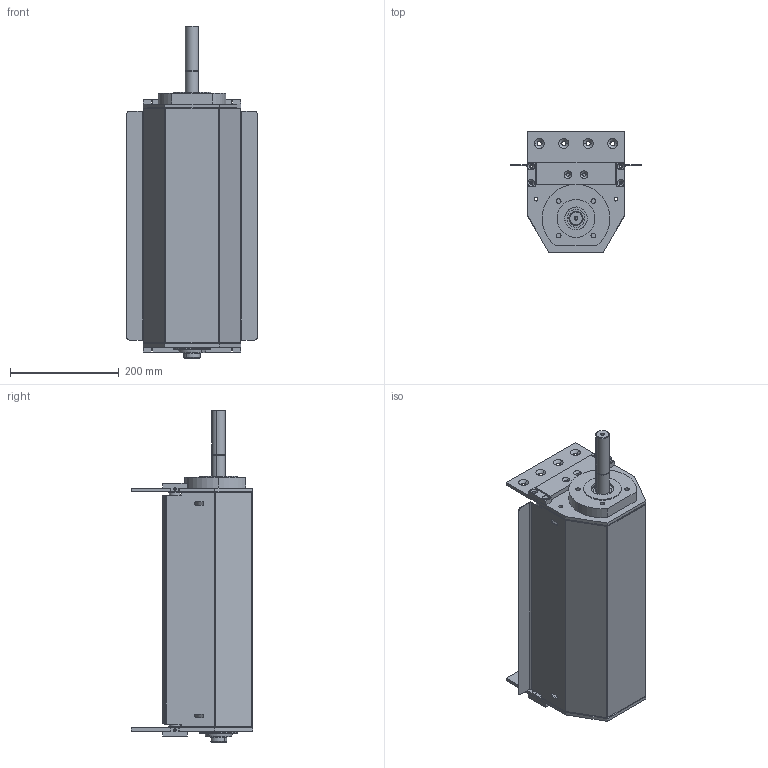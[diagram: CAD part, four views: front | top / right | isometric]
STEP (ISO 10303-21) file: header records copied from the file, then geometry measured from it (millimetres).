
FILE_DESCRIPTION (( 'STEP AP203' ), '1' );
FILE_NAME ('084.095.KCS.49.400.STEP', '2013-10-17T07:34:00', ( '' ), ( '' ), 'SwSTEP 2.0', 'SolidWorks 2011', '' );
FILE_SCHEMA (( 'CONFIG_CONTROL_DESIGN' ));
Length unit declared in the file: millimetre
Products named in the file (18): 084.095.KCS.49.400; CUSCINETTI A SFERE_6004-2RS; 084.802.003; 084.812.003; 084.802.020; 084.802.004-1; 084.810.003; 084.814.003-1; 084.802.021; 084.802.011; 084.802.012_Solo centrale; 084.802.047; 084.802.046; 084.802.048; 084.817.064; 084.817.066; 084.817.065_Default<A macchina>; 084.817.063
Assembly tree (31 placements, depth 2):
  084.095.KCS.49.400
    084.802.003  x2
    084.802.004-1  x4
    084.814.003-1
    084.802.046
    084.802.048  x4
    CUSCINETTI A SFERE_6004-2RS  x4
    084.802.011
    084.802.012_Solo centrale  x2
    084.817.064  x2
    084.802.020
    084.810.003  x2
    084.817.065_Default<A macchina>
    084.817.063  x2
    084.802.021
    084.817.066
    084.802.047
    084.812.003
Bounding box: 240 x 223 x 611 mm (x, y, z)
Volume: 3015675.1 mm3; surface area: 1458328.6 mm2
Topology: 33 solids, 33 shells, 906 faces, 2209 edges, 1414 vertices
Faces by surface type: cylinder 364, plane 331, cone 133, torus 68, sphere 10
Entity records: 19445 total; most frequent: DIRECTION 3235, CARTESIAN_POINT 2987, ORIENTED_EDGE 2750, EDGE_CURVE 1375, AXIS2_PLACEMENT_3D 1273, VERTEX_POINT 885, EDGE_LOOP 708, VECTOR 689
